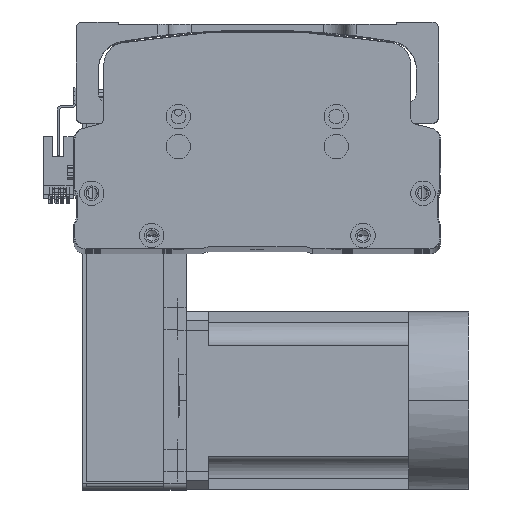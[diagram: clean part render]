
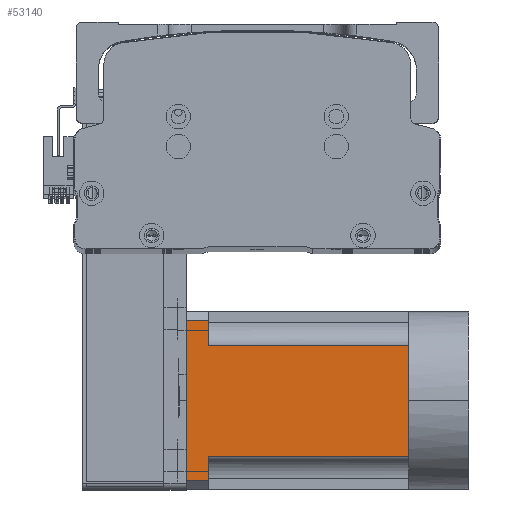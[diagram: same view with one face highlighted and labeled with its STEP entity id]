
A CAD part, top view. The second image highlights one B-rep face of the part: STEP entity #53140.
In plain terms, the highlighted planar face has unit normal (0, 0, 1) as drawn and (0, 0, -1) by its records, which use the part's own axes.
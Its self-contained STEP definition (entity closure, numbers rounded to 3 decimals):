
#2105 = EDGE_CURVE ( 'NONE', #5917, #7180, #11982, .T. ) ;
#4161 = PLANE ( 'NONE',  #13680 ) ;
#5486 = CARTESIAN_POINT ( 'NONE',  ( 0., 0., -40. ) ) ;
#5917 = VERTEX_POINT ( 'NONE', #27301 ) ;
#5935 = CARTESIAN_POINT ( 'NONE',  ( -25., 90., -40. ) ) ;
#6340 = VECTOR ( 'NONE', #62693, 1000. ) ;
#6891 = VECTOR ( 'NONE', #38195, 1000. ) ;
#7180 = VERTEX_POINT ( 'NONE', #21644 ) ;
#7752 = DIRECTION ( 'NONE',  ( -1., 0., 0. ) ) ;
#8932 = ORIENTED_EDGE ( 'NONE', *, *, #57213, .T. ) ;
#9300 = DIRECTION ( 'NONE',  ( -1., 0., 0. ) ) ;
#9443 = VERTEX_POINT ( 'NONE', #62571 ) ;
#10385 = ORIENTED_EDGE ( 'NONE', *, *, #2105, .T. ) ;
#10508 = VERTEX_POINT ( 'NONE', #58365 ) ;
#11982 = LINE ( 'NONE', #17751, #64348 ) ;
#13283 = EDGE_CURVE ( 'NONE', #9443, #18541, #20382, .T. ) ;
#13680 = AXIS2_PLACEMENT_3D ( 'NONE', #29470, #54754, #9300 ) ;
#15847 = EDGE_LOOP ( 'NONE', ( #61159, #8932, #10385, #35889, #32034, #38737, #17329, #65687, #60935 ) ) ;
#16031 = VECTOR ( 'NONE', #62367, 1000. ) ;
#17013 = CARTESIAN_POINT ( 'NONE',  ( -40., 0., -40. ) ) ;
#17329 = ORIENTED_EDGE ( 'NONE', *, *, #46195, .T. ) ;
#17751 = CARTESIAN_POINT ( 'NONE',  ( -40., 90., -40. ) ) ;
#18541 = VERTEX_POINT ( 'NONE', #64307 ) ;
#20382 = LINE ( 'NONE', #63467, #6891 ) ;
#21644 = CARTESIAN_POINT ( 'NONE',  ( 25., 90., -40. ) ) ;
#24346 = VERTEX_POINT ( 'NONE', #43839 ) ;
#24702 = VECTOR ( 'NONE', #53251, 1000. ) ;
#25357 = LINE ( 'NONE', #42362, #52335 ) ;
#26823 = DIRECTION ( 'NONE',  ( 0., 1., 0. ) ) ;
#26916 = CARTESIAN_POINT ( 'NONE',  ( 25., -27., -40. ) ) ;
#27301 = CARTESIAN_POINT ( 'NONE',  ( 36., 90., -40. ) ) ;
#28734 = VECTOR ( 'NONE', #36126, 1000. ) ;
#29470 = CARTESIAN_POINT ( 'NONE',  ( -40., -27., -40. ) ) ;
#30986 = CARTESIAN_POINT ( 'NONE',  ( -40., 100., -40. ) ) ;
#31906 = LINE ( 'NONE', #58311, #43848 ) ;
#32034 = ORIENTED_EDGE ( 'NONE', *, *, #33933, .T. ) ;
#33332 = EDGE_CURVE ( 'NONE', #7180, #24346, #41451, .T. ) ;
#33933 = EDGE_CURVE ( 'NONE', #24346, #34285, #41388, .T. ) ;
#34285 = VERTEX_POINT ( 'NONE', #5486 ) ;
#34315 = FACE_OUTER_BOUND ( 'NONE', #15847, .T. ) ;
#34366 = LINE ( 'NONE', #53265, #46259 ) ;
#34505 = EDGE_CURVE ( 'NONE', #34285, #10508, #34937, .T. ) ;
#34937 = LINE ( 'NONE', #17013, #6340 ) ;
#35889 = ORIENTED_EDGE ( 'NONE', *, *, #33332, .T. ) ;
#36126 = DIRECTION ( 'NONE',  ( -1., 0., 0. ) ) ;
#38195 = DIRECTION ( 'NONE',  ( 0., 1., 0. ) ) ;
#38391 = DIRECTION ( 'NONE',  ( -1., 0., 0. ) ) ;
#38737 = ORIENTED_EDGE ( 'NONE', *, *, #34505, .T. ) ;
#40996 = CARTESIAN_POINT ( 'NONE',  ( 36., 100., -40. ) ) ;
#41388 = LINE ( 'NONE', #43048, #24702 ) ;
#41451 = LINE ( 'NONE', #26916, #16031 ) ;
#42362 = CARTESIAN_POINT ( 'NONE',  ( -25., -27., -40. ) ) ;
#43048 = CARTESIAN_POINT ( 'NONE',  ( -40., 0., -40. ) ) ;
#43812 = LINE ( 'NONE', #30986, #28734 ) ;
#43839 = CARTESIAN_POINT ( 'NONE',  ( 25., 0., -40. ) ) ;
#43848 = VECTOR ( 'NONE', #7752, 1000. ) ;
#46195 = EDGE_CURVE ( 'NONE', #10508, #57599, #25357, .T. ) ;
#46259 = VECTOR ( 'NONE', #58344, 1000. ) ;
#50153 = EDGE_CURVE ( 'NONE', #57599, #9443, #31906, .T. ) ;
#50491 = VERTEX_POINT ( 'NONE', #40996 ) ;
#52335 = VECTOR ( 'NONE', #26823, 1000. ) ;
#53140 = ADVANCED_FACE ( 'NONE', ( #34315 ), #4161, .T. ) ;
#53251 = DIRECTION ( 'NONE',  ( -1., 0., 0. ) ) ;
#53265 = CARTESIAN_POINT ( 'NONE',  ( 36., -27., -40. ) ) ;
#53284 = EDGE_CURVE ( 'NONE', #50491, #18541, #43812, .T. ) ;
#54754 = DIRECTION ( 'NONE',  ( 0., 0., -1. ) ) ;
#57213 = EDGE_CURVE ( 'NONE', #50491, #5917, #34366, .T. ) ;
#57599 = VERTEX_POINT ( 'NONE', #5935 ) ;
#58311 = CARTESIAN_POINT ( 'NONE',  ( -40., 90., -40. ) ) ;
#58344 = DIRECTION ( 'NONE',  ( 0., -1., 0. ) ) ;
#58365 = CARTESIAN_POINT ( 'NONE',  ( -25., 0., -40. ) ) ;
#60935 = ORIENTED_EDGE ( 'NONE', *, *, #13283, .T. ) ;
#61159 = ORIENTED_EDGE ( 'NONE', *, *, #53284, .F. ) ;
#62367 = DIRECTION ( 'NONE',  ( 0., -1., 0. ) ) ;
#62571 = CARTESIAN_POINT ( 'NONE',  ( -36., 90., -40. ) ) ;
#62693 = DIRECTION ( 'NONE',  ( -1., 0., 0. ) ) ;
#63467 = CARTESIAN_POINT ( 'NONE',  ( -36., -27., -40. ) ) ;
#64307 = CARTESIAN_POINT ( 'NONE',  ( -36., 100., -40. ) ) ;
#64348 = VECTOR ( 'NONE', #38391, 1000. ) ;
#65687 = ORIENTED_EDGE ( 'NONE', *, *, #50153, .T. ) ;
